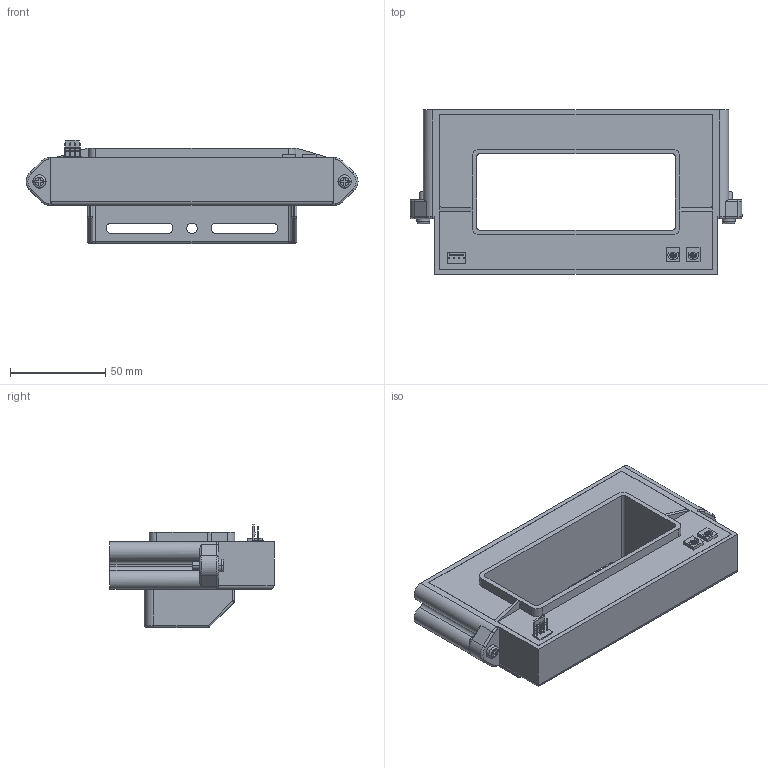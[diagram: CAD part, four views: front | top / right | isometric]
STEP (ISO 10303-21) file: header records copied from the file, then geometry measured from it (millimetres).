
FILE_DESCRIPTION(('Creo Elements/Direct Modeling STEP Export'),'2;1');
FILE_NAME('HOP-1000-SB.stp','2015-01-20T12:16:44',(''),(''),'Creo Elements/Direct Modeling STEP processor for AP214 (Solid Model)','Creo Elements/Direct Modeling 18.1B 29-Sep-2012 (C) Parametric Technology GmbH','');
FILE_SCHEMA(('AUTOMOTIVE_DESIGN { 1 0 10303 214 1 1 1 1 }'));
Length unit declared in the file: millimetre
Products named in the file (1): HOP_1000_SB
Bounding box: 174 x 86 x 54 mm (x, y, z)
Volume: 241172.3 mm3; surface area: 53114.8 mm2
Topology: 1 solids, 11 shells, 594 faces, 1548 edges, 1022 vertices
Faces by surface type: plane 256, cylinder 202, bspline 96, torus 16, sphere 12, cone 12
Entity records: 23596 total; most frequent: CARTESIAN_POINT 6281, ORIENTED_EDGE 3088, DIRECTION 2608, EDGE_CURVE 1544, VERTEX_POINT 1022, AXIS2_PLACEMENT_3D 879, VECTOR 850, LINE 850
